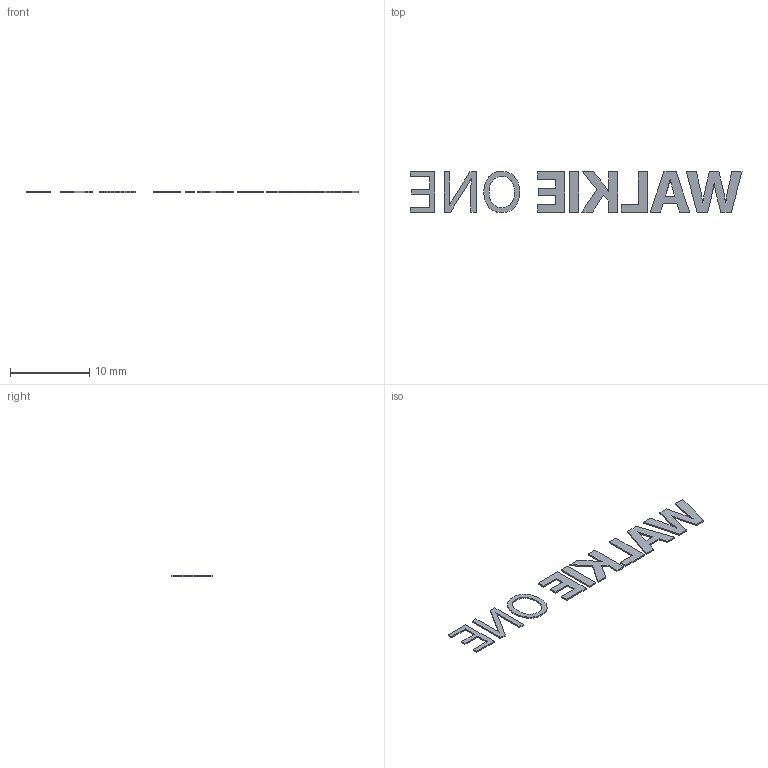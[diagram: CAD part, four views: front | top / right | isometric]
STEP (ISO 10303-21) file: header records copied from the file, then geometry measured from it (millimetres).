
FILE_DESCRIPTION(('Open CASCADE Model'),'2;1');
FILE_NAME('Open CASCADE Shape Model','2026-09-04T20:17:54',('Author'),( 'Open CASCADE'),'Open CASCADE STEP processor 7.7','Open CASCADE 7.7' ,'Unknown');
FILE_SCHEMA(('AUTOMOTIVE_DESIGN { 1 0 10303 214 1 1 1 1 }'));
Length unit declared in the file: millimetre
Products named in the file (10): Open CASCADE STEP translator 7.7 1; Open CASCADE STEP translator 7.7 1.1; Open CASCADE STEP translator 7.7 1.2; Open CASCADE STEP translator 7.7 1.3; Open CASCADE STEP translator 7.7 1.4; Open CASCADE STEP translator 7.7 1.5; Open CASCADE STEP translator 7.7 1.6; Open CASCADE STEP translator 7.7 1.7; Open CASCADE STEP translator 7.7 1.8; Open CASCADE STEP translator 7.7 1.9
Assembly tree (9 placements, depth 2):
  Open CASCADE STEP translator 7.7 1
    Open CASCADE STEP translator 7.7 1.1
    Open CASCADE STEP translator 7.7 1.2
    Open CASCADE STEP translator 7.7 1.3
    Open CASCADE STEP translator 7.7 1.4
    Open CASCADE STEP translator 7.7 1.5
    Open CASCADE STEP translator 7.7 1.6
    Open CASCADE STEP translator 7.7 1.7
    Open CASCADE STEP translator 7.7 1.8
    Open CASCADE STEP translator 7.7 1.9
Bounding box: 42 x 5.23 x 0.17 mm (x, y, z)
Volume: 16.9 mm3; surface area: 238.3 mm2
Topology: 9 solids, 9 shells, 158 faces, 420 edges, 280 vertices
Faces by surface type: plane 99, extrusion 59
Entity records: 10546 total; most frequent: CARTESIAN_POINT 2298, DIRECTION 1301, VECTOR 1083, LINE 1024, ORIENTED_EDGE 840, PCURVE 840, DEFINITIONAL_REPRESENTATION 840, EDGE_CURVE 420
